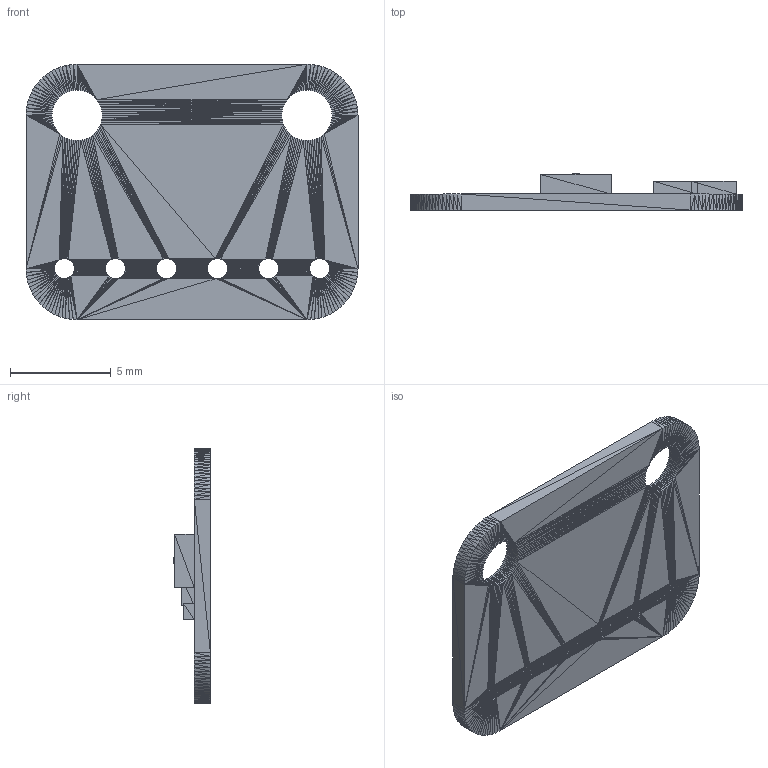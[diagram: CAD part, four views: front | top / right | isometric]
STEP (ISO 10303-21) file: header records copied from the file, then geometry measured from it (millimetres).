
FILE_DESCRIPTION(('Open CASCADE Model'),'2;1');
FILE_NAME('REF_mic_adafruit3421_full','2026-09-08T13:43:23',('Author'),( 'Open CASCADE'),'Open CASCADE STEP processor 7.8','build123d', 'Unknown');
FILE_SCHEMA(('AUTOMOTIVE_DESIGN { 1 0 10303 214 1 1 1 1 }'));
Length unit declared in the file: millimetre
Products named in the file (8): =>[0:1:1:2]; REF_mic_adafruit3421_full; SOLID
Assembly tree (7 placements, depth 3):
  =>[0:1:1:2]
    REF_mic_adafruit3421_full
      SOLID
      SOLID
      SOLID
      SOLID
      SOLID
      SOLID
Bounding box: 16.51 x 1.83 x 12.7 mm (x, y, z)
Volume: 165.5 mm3; surface area: 507.8 mm2
Topology: 6 solids, 6 shells, 3448 faces, 5172 edges, 1720 vertices
Faces by surface type: plane 3448
Entity records: 134618 total; most frequent: DIRECTION 22428, CARTESIAN_POINT 20692, LINE 15516, VECTOR 15516, ORIENTED_EDGE 10344, PCURVE 10344, DEFINITIONAL_REPRESENTATION 10344, EDGE_CURVE 5172
